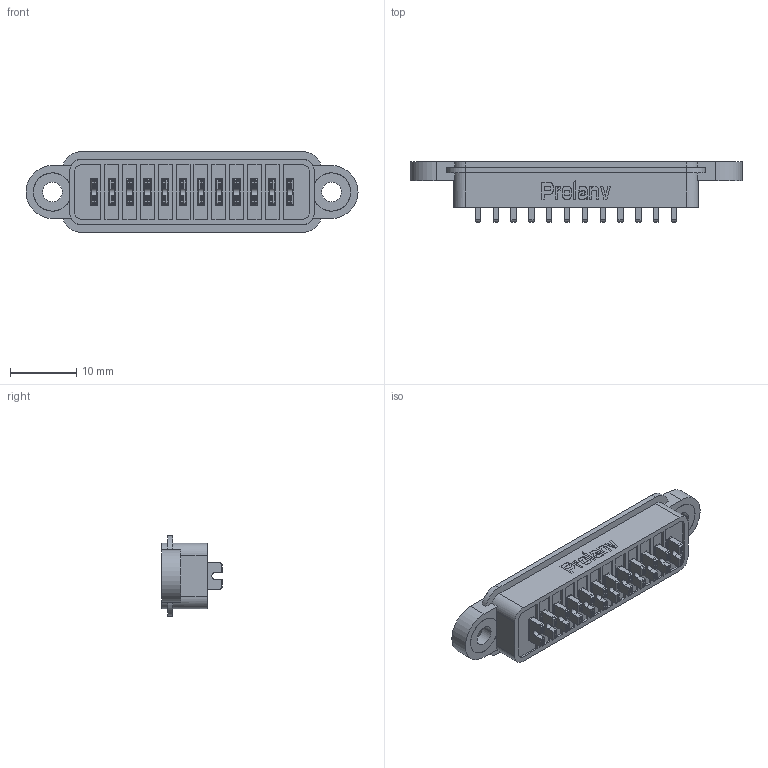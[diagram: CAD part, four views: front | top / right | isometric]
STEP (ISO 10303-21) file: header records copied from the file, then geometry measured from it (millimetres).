
FILE_DESCRIPTION(/* description */ (''),/* implementation_level */ '2;1');
FILE_NAME(/* name */ 'PDC1620B0011-石头档.stp',/* time_stamp */ '2025-02-18T16:41:02+08:00',/* author */ (''),/* organization */ (''),/* preprocessor_version */ 'ST-DEVELOPER v16.7',/* originating_system */ 'SIEMENS PLM Software NX 1946',/* authorisation */ '');
FILE_SCHEMA (('AUTOMOTIVE_DESIGN { 1 0 10303 214 3 1 1 1 }'));
Length unit declared in the file: millimetre
Products named in the file (1): _model1
Bounding box: 50.3 x 9.2 x 12.2 mm (x, y, z)
Volume: 1883.6 mm3; surface area: 4284 mm2
Topology: 1 solids, 1 shells, 1772 faces, 4918 edges, 3256 vertices
Faces by surface type: plane 1096, cylinder 598, extrusion 62, cone 16
Entity records: 57178 total; most frequent: CARTESIAN_POINT 10759, ORIENTED_EDGE 9836, DIRECTION 9524, EDGE_CURVE 4918, VECTOR 3510, LINE 3448, VERTEX_POINT 3256, AXIS2_PLACEMENT_3D 3007
